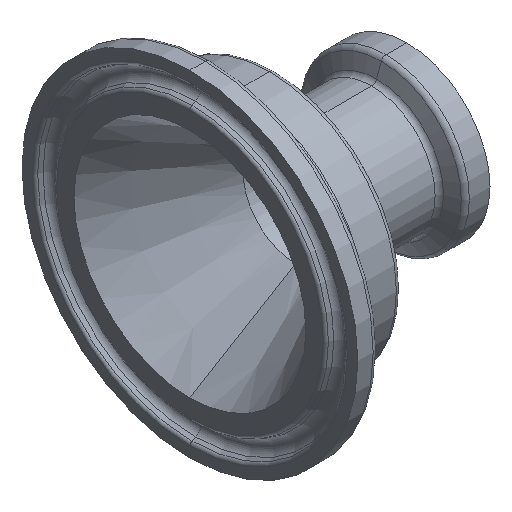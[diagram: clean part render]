
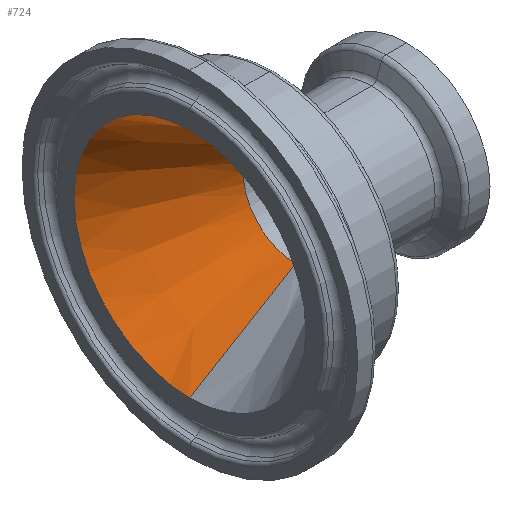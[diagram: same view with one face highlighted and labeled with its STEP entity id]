
A CAD part, isometric view. The second image highlights one B-rep face of the part: STEP entity #724.
In plain terms, the highlighted conical face has half-angle 30.964 degrees and reference radius 17.399 mm.
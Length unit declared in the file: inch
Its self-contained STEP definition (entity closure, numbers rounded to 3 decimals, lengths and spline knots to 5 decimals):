
#3 = CIRCLE ( 'NONE', #1212, 0.685 ) ;
#4 = CARTESIAN_POINT ( 'NONE',  ( 0., 0., 0.685 ) ) ;
#5 = EDGE_CURVE ( 'NONE', #106, #636, #3, .T. ) ;
#10 = CARTESIAN_POINT ( 'NONE',  ( 0., 0., 0. ) ) ;
#33 = VERTEX_POINT ( 'NONE', #438 ) ;
#79 = AXIS2_PLACEMENT_3D ( 'NONE', #869, #430, #545 ) ;
#106 = VERTEX_POINT ( 'NONE', #591 ) ;
#143 = VECTOR ( 'NONE', #772, 39.37008 ) ;
#145 = ORIENTED_EDGE ( 'NONE', *, *, #811, .F. ) ;
#182 = DIRECTION ( 'NONE',  ( -1., 0., 0. ) ) ;
#323 = LINE ( 'NONE', #4, #143 ) ;
#409 = CARTESIAN_POINT ( 'NONE',  ( 0., 0., -0.685 ) ) ;
#430 = DIRECTION ( 'NONE',  ( -1., 0., 0. ) ) ;
#438 = CARTESIAN_POINT ( 'NONE',  ( 0.625, 0., 0.31 ) ) ;
#545 = DIRECTION ( 'NONE',  ( 0., 0., 1. ) ) ;
#591 = CARTESIAN_POINT ( 'NONE',  ( 0., 0., 0.685 ) ) ;
#629 = DIRECTION ( 'NONE',  ( 0., 0., 1. ) ) ;
#636 = VERTEX_POINT ( 'NONE', #409 ) ;
#661 = VECTOR ( 'NONE', #1436, 39.37008 ) ;
#696 = EDGE_CURVE ( 'NONE', #1112, #636, #956, .T. ) ;
#724 = ADVANCED_FACE ( 'NONE', ( #733 ), #1247, .F. ) ;
#733 = FACE_OUTER_BOUND ( 'NONE', #1201, .T. ) ;
#772 = DIRECTION ( 'NONE',  ( -0.857, 0., 0.514 ) ) ;
#808 = EDGE_CURVE ( 'NONE', #33, #106, #323, .T. ) ;
#811 = EDGE_CURVE ( 'NONE', #33, #1112, #1345, .T. ) ;
#869 = CARTESIAN_POINT ( 'NONE',  ( 0.625, 0., 0. ) ) ;
#934 = ORIENTED_EDGE ( 'NONE', *, *, #696, .F. ) ;
#956 = LINE ( 'NONE', #964, #661 ) ;
#964 = CARTESIAN_POINT ( 'NONE',  ( 0., 0., -0.685 ) ) ;
#1112 = VERTEX_POINT ( 'NONE', #1383 ) ;
#1114 = AXIS2_PLACEMENT_3D ( 'NONE', #1189, #182, #629 ) ;
#1176 = ORIENTED_EDGE ( 'NONE', *, *, #5, .T. ) ;
#1189 = CARTESIAN_POINT ( 'NONE',  ( 0., 0., 0. ) ) ;
#1201 = EDGE_LOOP ( 'NONE', ( #934, #145, #1215, #1176 ) ) ;
#1212 = AXIS2_PLACEMENT_3D ( 'NONE', #10, #1363, #1452 ) ;
#1215 = ORIENTED_EDGE ( 'NONE', *, *, #808, .T. ) ;
#1247 = CONICAL_SURFACE ( 'NONE', #1114, 0.685, 0.54 ) ;
#1345 = CIRCLE ( 'NONE', #79, 0.31 ) ;
#1363 = DIRECTION ( 'NONE',  ( -1., 0., 0. ) ) ;
#1383 = CARTESIAN_POINT ( 'NONE',  ( 0.625, 0., -0.31 ) ) ;
#1436 = DIRECTION ( 'NONE',  ( -0.857, 0., -0.514 ) ) ;
#1452 = DIRECTION ( 'NONE',  ( 0., 0., 1. ) ) ;
